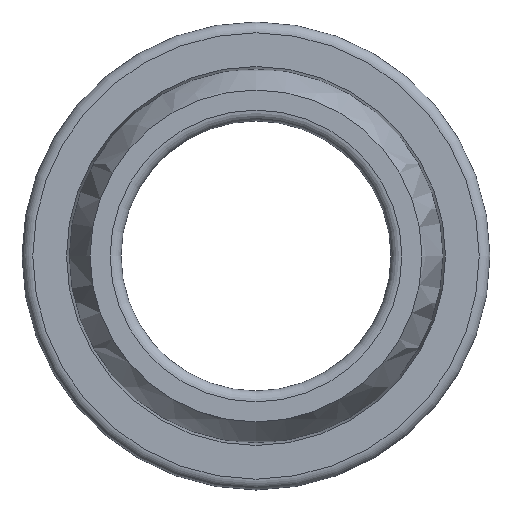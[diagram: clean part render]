
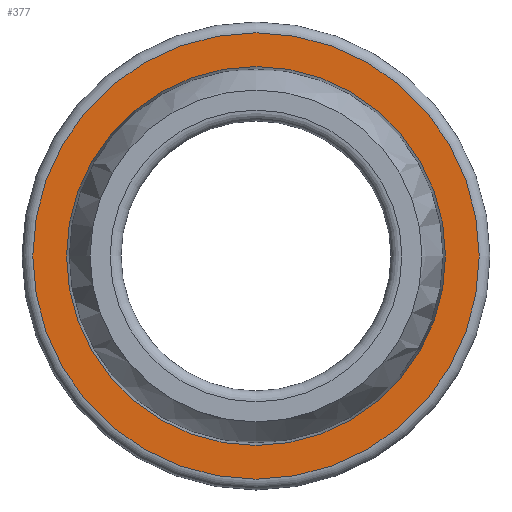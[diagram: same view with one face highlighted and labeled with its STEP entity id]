
A CAD part, left-side view. The second image highlights one B-rep face of the part: STEP entity #377.
In plain terms, the highlighted planar face has unit normal (-1, 0, 0).
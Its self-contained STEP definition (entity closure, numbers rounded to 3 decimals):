
#31=PLANE('',#432);
#77=FACE_BOUND('',#168,.T.);
#110=FACE_OUTER_BOUND('',#167,.T.);
#167=EDGE_LOOP('',(#334));
#168=EDGE_LOOP('',(#335));
#202=CIRCLE('',#431,10.529);
#203=CIRCLE('',#433,12.4);
#236=VERTEX_POINT('',#886);
#237=VERTEX_POINT('',#889);
#271=EDGE_CURVE('',#236,#236,#202,.T.);
#272=EDGE_CURVE('',#237,#237,#203,.T.);
#334=ORIENTED_EDGE('',*,*,#272,.F.);
#335=ORIENTED_EDGE('',*,*,#271,.T.);
#377=ADVANCED_FACE('',(#110,#77),#31,.T.);
#431=AXIS2_PLACEMENT_3D('',#887,#537,#538);
#432=AXIS2_PLACEMENT_3D('',#888,#539,#540);
#433=AXIS2_PLACEMENT_3D('',#890,#541,#542);
#537=DIRECTION('center_axis',(1.,0.,0.));
#538=DIRECTION('ref_axis',(0.,0.,-1.));
#539=DIRECTION('center_axis',(-1.,0.,0.));
#540=DIRECTION('ref_axis',(0.,0.,1.));
#541=DIRECTION('center_axis',(1.,0.,0.));
#542=DIRECTION('ref_axis',(0.,0.,-1.));
#886=CARTESIAN_POINT('',(-4.5,10.529,0.));
#887=CARTESIAN_POINT('Origin',(-4.5,0.,0.));
#888=CARTESIAN_POINT('Origin',(-4.5,12.4,0.));
#889=CARTESIAN_POINT('',(-4.5,12.4,0.));
#890=CARTESIAN_POINT('Origin',(-4.5,0.,0.));
